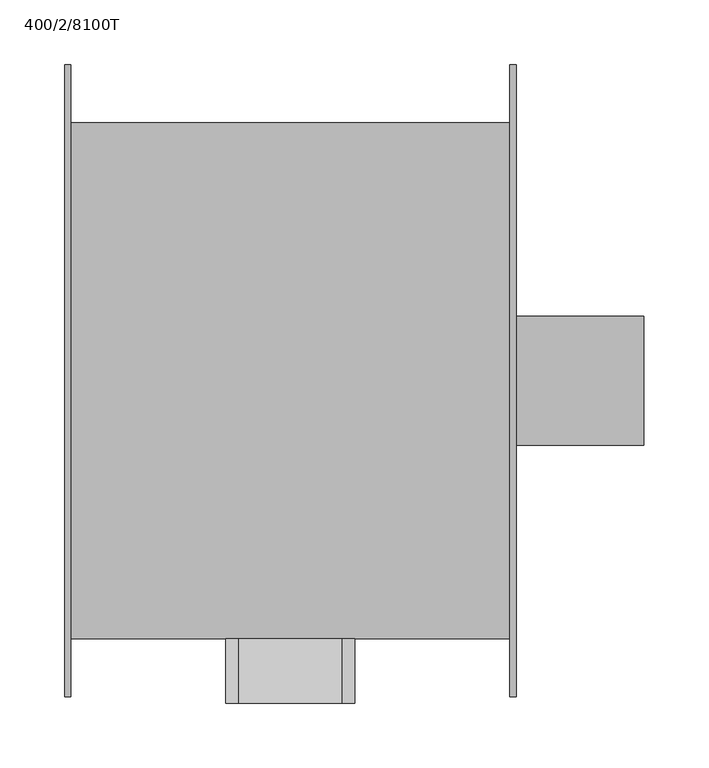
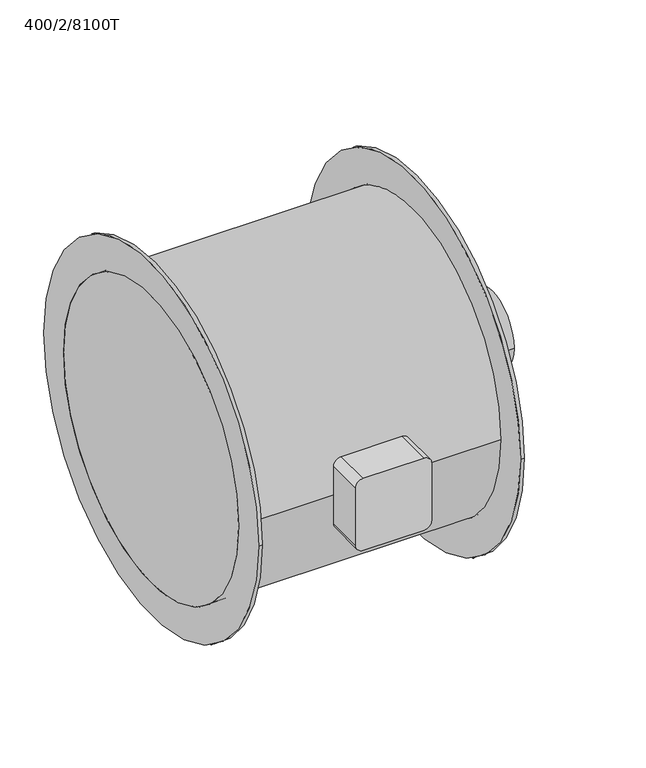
"""IFC4 building model written with IfcOpenShell, lengths in millimetres: unitary equipment geometry, VE-Wentylator-ParaForma-Harmann-AXER-Nawiewny : 400/2/8100T."""

from ifc_helpers import new_model, si_unit, point, frame, frame_2d, origin, origin_2d, place, context, project, spatial, polyline, circle_curve, trimmed, segment, composite_curve, outline, extrude, source, transform, mapped, element, save


def unitary_equipment_400_2_8100t_becce87e(model_context):
    return source(origin(), model_context, "Body", "SweptSolid", [
        extrude(outline(composite_curve([segment(trimmed(circle_curve(origin_2d(), 50.0), [point((-50.0, 0.0))], [point((50.0, 0.0))], False, "CARTESIAN"), True, "CONTINUOUS"), segment(trimmed(circle_curve(origin_2d(), 50.0), [point((50.0, 0.0))], [point((-50.0, 0.0))], False, "CARTESIAN"), True, "CONTINUOUS")], self_intersect=False)), frame((175.0, 0.0, 0.0), z_axis=(1.0, 0.0, 0.0), x_axis=(0.0, 1.0, 0.0)), (0.0, 0.0, 1.0), 99.0),
        extrude(outline(composite_curve([segment(trimmed(circle_curve(frame_2d((-40.0, 40.0)), 10.0), [point((-50.0, 40.0))], [point((-40.0, 50.0))], False, "CARTESIAN"), True, "CONTINUOUS"), segment(polyline([(-40.0, 50.0), (40.0, 50.0)]), True, "CONTINUOUS"), segment(trimmed(circle_curve(frame_2d((40.0, 40.0)), 10.0), [point((40.0, 50.0))], [point((50.0, 40.0))], False, "CARTESIAN"), True, "CONTINUOUS"), segment(polyline([(50.0, 40.0), (50.0, -40.0)]), True, "CONTINUOUS"), segment(trimmed(circle_curve(frame_2d((40.0, -40.0)), 10.0), [point((50.0, -40.0))], [point((40.0, -50.0))], False, "CARTESIAN"), True, "CONTINUOUS"), segment(polyline([(40.0, -50.0), (-40.0, -50.0)]), True, "CONTINUOUS"), segment(trimmed(circle_curve(frame_2d((-40.0, -40.0)), 10.0), [point((-40.0, -50.0))], [point((-50.0, -40.0))], False, "CARTESIAN"), True, "CONTINUOUS"), segment(polyline([(-50.0, -40.0), (-50.0, 40.0)]), True, "CONTINUOUS")], self_intersect=False)), frame((0.0, -250.0, 0.0), z_axis=(0.0, 1.0, 0.0), x_axis=(0.0, 0.0, 1.0)), (0.0, 0.0, 1.0), 50.0),
        extrude(outline(composite_curve([segment(trimmed(circle_curve(origin_2d(), 245.0), [point((-245.0, 0.0))], [point((245.0, 0.0))], False, "CARTESIAN"), True, "CONTINUOUS"), segment(trimmed(circle_curve(origin_2d(), 245.0), [point((245.0, 0.0))], [point((-245.0, 0.0))], False, "CARTESIAN"), True, "CONTINUOUS")], self_intersect=False), holes=[composite_curve([segment(trimmed(circle_curve(origin_2d(), 200.0), [point((-200.0, 0.0))], [point((200.0, 0.0))], True, "CARTESIAN"), True, "CONTINUOUS"), segment(trimmed(circle_curve(origin_2d(), 200.0), [point((200.0, 0.0))], [point((-200.0, 0.0))], True, "CARTESIAN"), True, "CONTINUOUS")], self_intersect=False)]), frame((170.0, 0.0, 0.0), z_axis=(1.0, 0.0, 0.0), x_axis=(0.0, 1.0, 0.0)), (0.0, 0.0, 1.0), 5.0),
        extrude(outline(composite_curve([segment(trimmed(circle_curve(origin_2d(), 245.0), [point((-245.0, 0.0))], [point((245.0, 0.0))], False, "CARTESIAN"), True, "CONTINUOUS"), segment(trimmed(circle_curve(origin_2d(), 245.0), [point((245.0, 0.0))], [point((-245.0, 0.0))], False, "CARTESIAN"), True, "CONTINUOUS")], self_intersect=False), holes=[composite_curve([segment(trimmed(circle_curve(origin_2d(), 200.0), [point((-200.0, 0.0))], [point((200.0, 0.0))], True, "CARTESIAN"), True, "CONTINUOUS"), segment(trimmed(circle_curve(origin_2d(), 200.0), [point((200.0, 0.0))], [point((-200.0, 0.0))], True, "CARTESIAN"), True, "CONTINUOUS")], self_intersect=False)]), frame((-175.0, 0.0, 0.0), z_axis=(1.0, 0.0, 0.0), x_axis=(0.0, 1.0, 0.0)), (0.0, 0.0, 1.0), 5.0),
        extrude(outline(composite_curve([segment(trimmed(circle_curve(origin_2d(), 200.0), [point((-200.0, 0.0))], [point((200.0, 0.0))], False, "CARTESIAN"), True, "CONTINUOUS"), segment(trimmed(circle_curve(origin_2d(), 200.0), [point((200.0, 0.0))], [point((-200.0, 0.0))], False, "CARTESIAN"), True, "CONTINUOUS")], self_intersect=False)), frame((-175.0, 0.0, 0.0), z_axis=(1.0, 0.0, 0.0), x_axis=(0.0, 1.0, 0.0)), (0.0, 0.0, 1.0), 350.0),
    ])


if __name__ == "__main__":
    model = new_model("IFC4")
    model_context = context("Model", 3, world=origin())
    ifc_project = project(units=[si_unit("LENGTHUNIT", "METRE", prefix="MILLI")], contexts=[model_context])
    site = spatial("IfcSite", under=ifc_project)
    building = spatial("IfcBuilding", under=site)
    placement = place(None, origin())
    unitary_equipment_400_2_8100t_shape = unitary_equipment_400_2_8100t_becce87e(model_context)
    element("IfcUnitaryEquipment", 1, ObjectType="VE-Wentylator-ParaForma-Harmann-AXER-Nawiewny : 400/2/8100T", at=placement, inside=building, context=model_context, shape_type="MappedRepresentation", body=[
        mapped(unitary_equipment_400_2_8100t_shape, transform((0.0, 0.0, 0.0), x_axis=(1.0, 0.0, 0.0), y_axis=(0.0, 1.0, 0.0), z_axis=(0.0, 0.0, 1.0))),
    ])
    save(model, "model.ifc")
